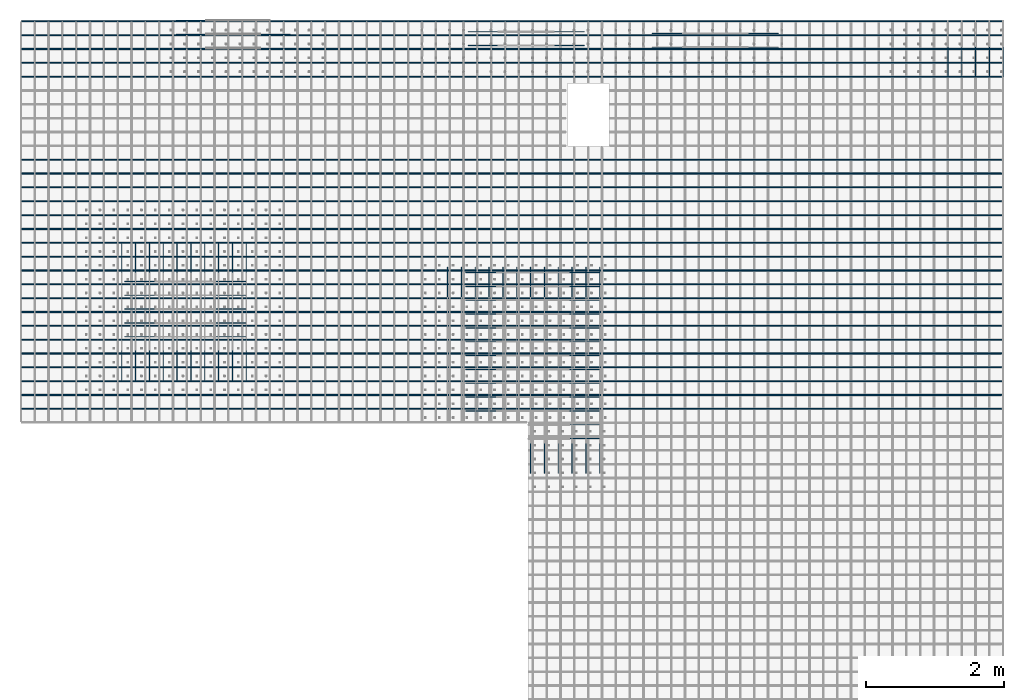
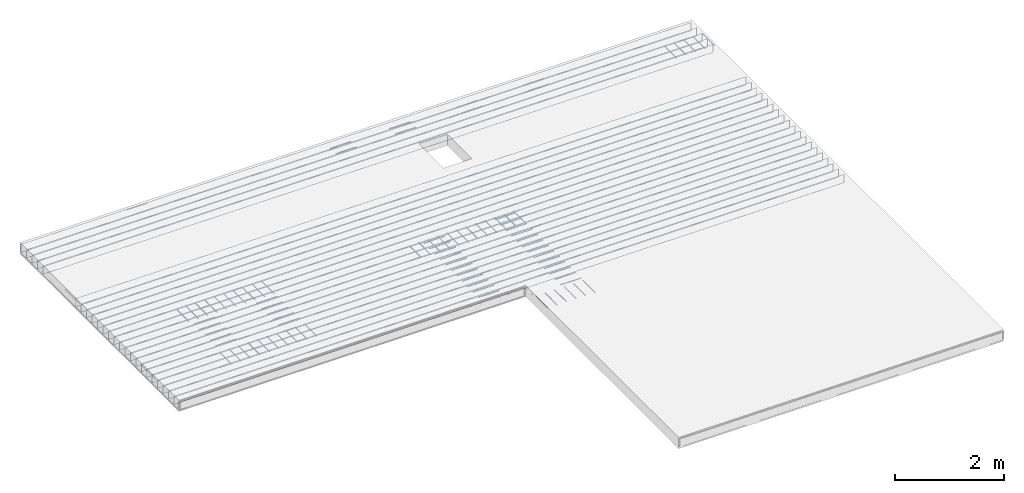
# One storey, part 2 of 4: 2 reinforcing bars.
"""IFC4 building model written with IfcOpenShell, lengths in metres."""

from ifc_helpers import new_model, entity, si_unit, frame, origin_with_axes, place, context, project, spatial, source, transform, mapped, element, save


model = new_model("IFC4")

# Units and contexts
model_context = context("Model", 3, precision=1e-05, world=origin_with_axes())
ifc_project = project(units=[si_unit("LENGTHUNIT", "METRE"), si_unit("AREAUNIT", "SQUARE_METRE"), si_unit("VOLUMEUNIT", "CUBIC_METRE"), si_unit("MASSUNIT", "GRAM", prefix="KILO"), si_unit("TIMEUNIT", "SECOND"), si_unit("PLANEANGLEUNIT", "RADIAN"), si_unit("SOLIDANGLEUNIT", "STERADIAN"), si_unit("THERMODYNAMICTEMPERATUREUNIT", "DEGREE_CELSIUS")], contexts=[model_context])

# Site, building, storey
placement_1 = place(None, origin_with_axes())
site = spatial("IfcSite", under=ifc_project, at=placement_1, Name="Italia", CompositionType="ELEMENT")
building = spatial("IfcBuilding", under=site, at=placement_1, Name="Abitazione", CompositionType="ELEMENT")
storey_placement = place(None, frame((0.0, 0.0, 6.730000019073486), z_axis=(0.0, 0.0, 1.0), x_axis=(1.0, 0.0, 0.0)))
storey = spatial("IfcBuildingStorey", under=building, at=storey_placement, Name="Storey 2", CompositionType="ELEMENT", Elevation=6.730000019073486)

# Reinforcing bars
shared_shape_1 = source(origin_with_axes(), model_context, "Body", "AdvancedSweptSolid", [
    entity("IfcSweptDiskSolid", entity("IfcIndexedPolyCurve", entity("IfcCartesianPointList3D", [[0.812, 5.794, 6.534], [0.812, 5.794, 6.69], [0.812761, 5.794, 6.69383], [0.814929, 5.794, 6.69707], [0.818173, 5.794, 6.69924], [0.822, 5.794, 6.7], [14.966, 5.794, 6.7], [14.9698, 5.794, 6.69924], [14.9731, 5.794, 6.69707], [14.9752, 5.794, 6.69383], [14.976, 5.794, 6.69], [14.976, 5.794, 6.534]]), [entity("IfcLineIndex", [1, 2]), entity("IfcLineIndex", [2, 3]), entity("IfcLineIndex", [3, 4]), entity("IfcLineIndex", [4, 5]), entity("IfcLineIndex", [5, 6]), entity("IfcLineIndex", [6, 7]), entity("IfcLineIndex", [7, 8]), entity("IfcLineIndex", [8, 9]), entity("IfcLineIndex", [9, 10]), entity("IfcLineIndex", [10, 11]), entity("IfcLineIndex", [11, 12])], False), 0.006),
])
placement_2 = place(placement_1, origin_with_axes())
reinforcing_bar_1_placement = place(placement_2, origin_with_axes())
element("IfcReinforcingBar", 1, at=reinforcing_bar_1_placement, inside=storey, BarLength=14.4872, CrossSectionArea=0.0001131, NominalDiameter=0.012, context=model_context, shape_type="MappedRepresentation", body=[
    mapped(shared_shape_1, transform((0.0, 13.2, 13.21), x_axis=(1.0, 0.0, 0.0), y_axis=(0.0, -1.0, 0.0), z_axis=(0.0, 0.0, -1.0), scale=1.0)),
    mapped(shared_shape_1, transform((0.0, 13.0, 13.21), x_axis=(1.0, 0.0, 0.0), y_axis=(0.0, -1.0, 0.0), z_axis=(0.0, 0.0, -1.0), scale=1.0)),
    mapped(shared_shape_1, transform((0.0, 12.8, 13.21), x_axis=(1.0, 0.0, 0.0), y_axis=(0.0, -1.0, 0.0), z_axis=(0.0, 0.0, -1.0), scale=1.0)),
    mapped(shared_shape_1, transform((0.0, 13.8, 13.21), x_axis=(1.0, 0.0, 0.0), y_axis=(0.0, -1.0, 0.0), z_axis=(0.0, 0.0, -1.0), scale=1.0)),
    mapped(shared_shape_1, transform((0.0, 13.6, 13.21), x_axis=(1.0, 0.0, 0.0), y_axis=(0.0, -1.0, 0.0), z_axis=(0.0, 0.0, -1.0), scale=1.0)),
    mapped(shared_shape_1, transform((0.0, 13.4, 13.21), x_axis=(1.0, 0.0, 0.0), y_axis=(0.0, -1.0, 0.0), z_axis=(0.0, 0.0, -1.0), scale=1.0)),
    mapped(shared_shape_1, transform((0.0, 12.0, 13.21), x_axis=(1.0, 0.0, 0.0), y_axis=(0.0, -1.0, 0.0), z_axis=(0.0, 0.0, -1.0), scale=1.0)),
    mapped(shared_shape_1, transform((0.0, 11.8, 13.21), x_axis=(1.0, 0.0, 0.0), y_axis=(0.0, -1.0, 0.0), z_axis=(0.0, 0.0, -1.0), scale=1.0)),
    mapped(shared_shape_1, transform((0.0, 11.6, 13.21), x_axis=(1.0, 0.0, 0.0), y_axis=(0.0, -1.0, 0.0), z_axis=(0.0, 0.0, -1.0), scale=1.0)),
    mapped(shared_shape_1, transform((0.0, 12.6, 13.21), x_axis=(1.0, 0.0, 0.0), y_axis=(0.0, -1.0, 0.0), z_axis=(0.0, 0.0, -1.0), scale=1.0)),
    mapped(shared_shape_1, transform((0.0, 12.4, 13.21), x_axis=(1.0, 0.0, 0.0), y_axis=(0.0, -1.0, 0.0), z_axis=(0.0, 0.0, -1.0), scale=1.0)),
    mapped(shared_shape_1, transform((0.0, 12.2, 13.21), x_axis=(1.0, 0.0, 0.0), y_axis=(0.0, -1.0, 0.0), z_axis=(0.0, 0.0, -1.0), scale=1.0)),
    mapped(shared_shape_1, transform((0.0, 16.6, 13.21), x_axis=(1.0, 0.0, 0.0), y_axis=(0.0, -1.0, 0.0), z_axis=(0.0, 0.0, -1.0), scale=1.0)),
    mapped(shared_shape_1, transform((0.0, 16.4, 13.21), x_axis=(1.0, 0.0, 0.0), y_axis=(0.0, -1.0, 0.0), z_axis=(0.0, 0.0, -1.0), scale=1.0)),
    mapped(shared_shape_1, transform((0.0, 15.2, 13.21), x_axis=(1.0, 0.0, 0.0), y_axis=(0.0, -1.0, 0.0), z_axis=(0.0, 0.0, -1.0), scale=1.0)),
    mapped(shared_shape_1, transform((0.0, 17.2, 13.21), x_axis=(1.0, 0.0, 0.0), y_axis=(0.0, -1.0, 0.0), z_axis=(0.0, 0.0, -1.0), scale=1.0)),
    mapped(shared_shape_1, transform((0.0, 17.0, 13.21), x_axis=(1.0, 0.0, 0.0), y_axis=(0.0, -1.0, 0.0), z_axis=(0.0, 0.0, -1.0), scale=1.0)),
    mapped(shared_shape_1, transform((0.0, 16.8, 13.21), x_axis=(1.0, 0.0, 0.0), y_axis=(0.0, -1.0, 0.0), z_axis=(0.0, 0.0, -1.0), scale=1.0)),
    mapped(shared_shape_1, transform((0.0, 14.4, 13.21), x_axis=(1.0, 0.0, 0.0), y_axis=(0.0, -1.0, 0.0), z_axis=(0.0, 0.0, -1.0), scale=1.0)),
    mapped(shared_shape_1, transform((0.0, 14.2, 13.21), x_axis=(1.0, 0.0, 0.0), y_axis=(0.0, -1.0, 0.0), z_axis=(0.0, 0.0, -1.0), scale=1.0)),
    mapped(shared_shape_1, transform((0.0, 14.0, 13.21), x_axis=(1.0, 0.0, 0.0), y_axis=(0.0, -1.0, 0.0), z_axis=(0.0, 0.0, -1.0), scale=1.0)),
    mapped(shared_shape_1, transform((0.0, 15.0, 13.21), x_axis=(1.0, 0.0, 0.0), y_axis=(0.0, -1.0, 0.0), z_axis=(0.0, 0.0, -1.0), scale=1.0)),
    mapped(shared_shape_1, transform((0.0, 14.8, 13.21), x_axis=(1.0, 0.0, 0.0), y_axis=(0.0, -1.0, 0.0), z_axis=(0.0, 0.0, -1.0), scale=1.0)),
    mapped(shared_shape_1, transform((0.0, 14.6, 13.21), x_axis=(1.0, 0.0, 0.0), y_axis=(0.0, -1.0, 0.0), z_axis=(0.0, 0.0, -1.0), scale=1.0)),
    mapped(shared_shape_1, transform((0.0, 1.6, 0.0), x_axis=(1.0, 0.0, 0.0), y_axis=(0.0, 1.0, 0.0), z_axis=(0.0, 0.0, 1.0), scale=1.0)),
    mapped(shared_shape_1, transform((0.0, 1.4, 0.0), x_axis=(1.0, 0.0, 0.0), y_axis=(0.0, 1.0, 0.0), z_axis=(0.0, 0.0, 1.0), scale=1.0)),
    mapped(shared_shape_1, transform((0.0, 1.2, 0.0), x_axis=(1.0, 0.0, 0.0), y_axis=(0.0, 1.0, 0.0), z_axis=(0.0, 0.0, 1.0), scale=1.0)),
    mapped(shared_shape_1, transform((0.0, 2.2, 0.0), x_axis=(1.0, 0.0, 0.0), y_axis=(0.0, 1.0, 0.0), z_axis=(0.0, 0.0, 1.0), scale=1.0)),
    mapped(shared_shape_1, transform((0.0, 2.0, 0.0), x_axis=(1.0, 0.0, 0.0), y_axis=(0.0, 1.0, 0.0), z_axis=(0.0, 0.0, 1.0), scale=1.0)),
    mapped(shared_shape_1, transform((0.0, 1.8, 0.0), x_axis=(1.0, 0.0, 0.0), y_axis=(0.0, 1.0, 0.0), z_axis=(0.0, 0.0, 1.0), scale=1.0)),
    mapped(shared_shape_1, transform((0.0, 0.4, 0.0), x_axis=(1.0, 0.0, 0.0), y_axis=(0.0, 1.0, 0.0), z_axis=(0.0, 0.0, 1.0), scale=1.0)),
    mapped(shared_shape_1, transform((0.0, 0.2, 0.0), x_axis=(1.0, 0.0, 0.0), y_axis=(0.0, 1.0, 0.0), z_axis=(0.0, 0.0, 1.0), scale=1.0)),
    mapped(shared_shape_1, transform((0.0, 0.0, 0.0), x_axis=(1.0, 0.0, 0.0), y_axis=(0.0, 1.0, 0.0), z_axis=(0.0, 0.0, 1.0), scale=1.0)),
    mapped(shared_shape_1, transform((0.0, 0.999999, 0.0), x_axis=(1.0, 0.0, 0.0), y_axis=(0.0, 1.0, 0.0), z_axis=(0.0, 0.0, 1.0), scale=1.0)),
    mapped(shared_shape_1, transform((0.0, 0.799999, 0.0), x_axis=(1.0, 0.0, 0.0), y_axis=(0.0, 1.0, 0.0), z_axis=(0.0, 0.0, 1.0), scale=1.0)),
    mapped(shared_shape_1, transform((0.0, 0.599999, 0.0), x_axis=(1.0, 0.0, 0.0), y_axis=(0.0, 1.0, 0.0), z_axis=(0.0, 0.0, 1.0), scale=1.0)),
    mapped(shared_shape_1, transform((0.0, 5.0, 0.0), x_axis=(1.0, 0.0, 0.0), y_axis=(0.0, 1.0, 0.0), z_axis=(0.0, 0.0, 1.0), scale=1.0)),
    mapped(shared_shape_1, transform((0.0, 4.8, 0.0), x_axis=(1.0, 0.0, 0.0), y_axis=(0.0, 1.0, 0.0), z_axis=(0.0, 0.0, 1.0), scale=1.0)),
    mapped(shared_shape_1, transform((0.0, 3.6, 0.0), x_axis=(1.0, 0.0, 0.0), y_axis=(0.0, 1.0, 0.0), z_axis=(0.0, 0.0, 1.0), scale=1.0)),
    mapped(shared_shape_1, transform((0.0, 5.6, 0.0), x_axis=(1.0, 0.0, 0.0), y_axis=(0.0, 1.0, 0.0), z_axis=(0.0, 0.0, 1.0), scale=1.0)),
    mapped(shared_shape_1, transform((0.0, 5.4, 0.0), x_axis=(1.0, 0.0, 0.0), y_axis=(0.0, 1.0, 0.0), z_axis=(0.0, 0.0, 1.0), scale=1.0)),
    mapped(shared_shape_1, transform((0.0, 5.2, 0.0), x_axis=(1.0, 0.0, 0.0), y_axis=(0.0, 1.0, 0.0), z_axis=(0.0, 0.0, 1.0), scale=1.0)),
    mapped(shared_shape_1, transform((0.0, 2.8, 0.0), x_axis=(1.0, 0.0, 0.0), y_axis=(0.0, 1.0, 0.0), z_axis=(0.0, 0.0, 1.0), scale=1.0)),
    mapped(shared_shape_1, transform((0.0, 2.6, 0.0), x_axis=(1.0, 0.0, 0.0), y_axis=(0.0, 1.0, 0.0), z_axis=(0.0, 0.0, 1.0), scale=1.0)),
    mapped(shared_shape_1, transform((0.0, 2.4, 0.0), x_axis=(1.0, 0.0, 0.0), y_axis=(0.0, 1.0, 0.0), z_axis=(0.0, 0.0, 1.0), scale=1.0)),
    mapped(shared_shape_1, transform((0.0, 3.4, 0.0), x_axis=(1.0, 0.0, 0.0), y_axis=(0.0, 1.0, 0.0), z_axis=(0.0, 0.0, 1.0), scale=1.0)),
    mapped(shared_shape_1, transform((0.0, 3.2, 0.0), x_axis=(1.0, 0.0, 0.0), y_axis=(0.0, 1.0, 0.0), z_axis=(0.0, 0.0, 1.0), scale=1.0)),
    mapped(shared_shape_1, transform((0.0, 3.0, 0.0), x_axis=(1.0, 0.0, 0.0), y_axis=(0.0, 1.0, 0.0), z_axis=(0.0, 0.0, 1.0), scale=1.0)),
])
shared_shape_2 = source(origin_with_axes(), model_context, "Body", "AdvancedSweptSolid", [
    entity("IfcSweptDiskSolid", entity("IfcIndexedPolyCurve", entity("IfcCartesianPointList3D", [[7.23045, 5.76872, 6.676], [7.66749, 5.76872, 6.676]]), [entity("IfcLineIndex", [1, 2])], False), 0.006),
])
reinforcing_bar_2_placement = place(placement_2, origin_with_axes())
element("IfcReinforcingBar", 2, at=reinforcing_bar_2_placement, inside=storey, BarLength=0.437046, CrossSectionArea=0.0001131, NominalDiameter=0.012, context=model_context, shape_type="MappedRepresentation", body=[
    mapped(shared_shape_2, transform((-3.61208, 1.27137, 0.0), x_axis=(1.0, 0.0, 0.0), y_axis=(0.0, 1.0, 0.0), z_axis=(0.0, 0.0, 1.0), scale=1.0)),
    mapped(shared_shape_2, transform((-3.61208, 1.07137, 0.0), x_axis=(1.0, 0.0, 0.0), y_axis=(0.0, 1.0, 0.0), z_axis=(0.0, 0.0, 1.0), scale=1.0)),
    mapped(shared_shape_2, transform((9.8284, -1.02461, -0.0120006), x_axis=(0.0, 1.0, 0.0), y_axis=(-1.0, 0.0, 0.0), z_axis=(0.0, 0.0, 1.0), scale=1.0)),
    mapped(shared_shape_2, transform((-3.61208, 1.47137, 0.0), x_axis=(1.0, 0.0, 0.0), y_axis=(0.0, 1.0, 0.0), z_axis=(0.0, 0.0, 1.0), scale=1.0)),
    mapped(shared_shape_2, transform((-4.93503, 1.07137, 0.0), x_axis=(1.0, 0.0, 0.0), y_axis=(0.0, 1.0, 0.0), z_axis=(0.0, 0.0, 1.0), scale=1.0)),
    mapped(shared_shape_2, transform((8.0284, 0.538341, -0.0120006), x_axis=(0.0, 1.0, 0.0), y_axis=(-1.0, 0.0, 0.0), z_axis=(0.0, 0.0, 1.0), scale=1.0)),
    mapped(shared_shape_2, transform((-4.93503, 1.47137, 0.0), x_axis=(1.0, 0.0, 0.0), y_axis=(0.0, 1.0, 0.0), z_axis=(0.0, 0.0, 1.0), scale=1.0)),
    mapped(shared_shape_2, transform((-4.93503, 1.27137, 0.0), x_axis=(1.0, 0.0, 0.0), y_axis=(0.0, 1.0, 0.0), z_axis=(0.0, 0.0, 1.0), scale=1.0)),
    mapped(shared_shape_2, transform((-4.93503, 1.87137, 0.0), x_axis=(1.0, 0.0, 0.0), y_axis=(0.0, 1.0, 0.0), z_axis=(0.0, 0.0, 1.0), scale=1.0)),
    mapped(shared_shape_2, transform((-4.93503, 1.67137, 0.0), x_axis=(1.0, 0.0, 0.0), y_axis=(0.0, 1.0, 0.0), z_axis=(0.0, 0.0, 1.0), scale=1.0)),
    mapped(shared_shape_2, transform((9.6284, -1.02461, -0.0120006), x_axis=(0.0, 1.0, 0.0), y_axis=(-1.0, 0.0, 0.0), z_axis=(0.0, 0.0, 1.0), scale=1.0)),
    mapped(shared_shape_2, transform((9.4284, -1.02461, -0.0120006), x_axis=(0.0, 1.0, 0.0), y_axis=(-1.0, 0.0, 0.0), z_axis=(0.0, 0.0, 1.0), scale=1.0)),
    mapped(shared_shape_2, transform((-3.61208, 1.87137, 0.0), x_axis=(1.0, 0.0, 0.0), y_axis=(0.0, 1.0, 0.0), z_axis=(0.0, 0.0, 1.0), scale=1.0)),
    mapped(shared_shape_2, transform((-3.61208, 1.67137, 0.0), x_axis=(1.0, 0.0, 0.0), y_axis=(0.0, 1.0, 0.0), z_axis=(0.0, 0.0, 1.0), scale=1.0)),
    mapped(shared_shape_2, transform((8.4284, -1.02461, -0.0120006), x_axis=(0.0, 1.0, 0.0), y_axis=(-1.0, 0.0, 0.0), z_axis=(0.0, 0.0, 1.0), scale=1.0)),
    mapped(shared_shape_2, transform((1.50295, 2.0, 0.0), x_axis=(1.0, 0.0, 0.0), y_axis=(0.0, 1.0, 0.0), z_axis=(0.0, 0.0, 1.0), scale=1.0)),
    mapped(shared_shape_2, transform((8.8284, -1.02461, -0.0120006), x_axis=(0.0, 1.0, 0.0), y_axis=(-1.0, 0.0, 0.0), z_axis=(0.0, 0.0, 1.0), scale=1.0)),
    mapped(shared_shape_2, transform((8.6284, -1.02461, -0.0120006), x_axis=(0.0, 1.0, 0.0), y_axis=(-1.0, 0.0, 0.0), z_axis=(0.0, 0.0, 1.0), scale=1.0)),
    mapped(shared_shape_2, transform((9.2284, -1.02461, -0.0120006), x_axis=(0.0, 1.0, 0.0), y_axis=(-1.0, 0.0, 0.0), z_axis=(0.0, 0.0, 1.0), scale=1.0)),
    mapped(shared_shape_2, transform((9.0284, -1.02461, -0.0120006), x_axis=(0.0, 1.0, 0.0), y_axis=(-1.0, 0.0, 0.0), z_axis=(0.0, 0.0, 1.0), scale=1.0)),
    mapped(shared_shape_2, transform((1.50295, 1.6, 0.0), x_axis=(1.0, 0.0, 0.0), y_axis=(0.0, 1.0, 0.0), z_axis=(0.0, 0.0, 1.0), scale=1.0)),
    mapped(shared_shape_2, transform((0.0, 1.8, 0.0), x_axis=(1.0, 0.0, 0.0), y_axis=(0.0, 1.0, 0.0), z_axis=(0.0, 0.0, 1.0), scale=1.0)),
    mapped(shared_shape_2, transform((8.0284, -1.02461, -0.0120006), x_axis=(0.0, 1.0, 0.0), y_axis=(-1.0, 0.0, 0.0), z_axis=(0.0, 0.0, 1.0), scale=1.0)),
    mapped(shared_shape_2, transform((1.50295, 1.8, 0.0), x_axis=(1.0, 0.0, 0.0), y_axis=(0.0, 1.0, 0.0), z_axis=(0.0, 0.0, 1.0), scale=1.0)),
    mapped(shared_shape_2, transform((0.0, 0.799999, 0.0), x_axis=(1.0, 0.0, 0.0), y_axis=(0.0, 1.0, 0.0), z_axis=(0.0, 0.0, 1.0), scale=1.0)),
    mapped(shared_shape_2, transform((8.2284, -1.02461, -0.0120006), x_axis=(0.0, 1.0, 0.0), y_axis=(-1.0, 0.0, 0.0), z_axis=(0.0, 0.0, 1.0), scale=1.0)),
    mapped(shared_shape_2, transform((0.0, 1.2, 0.0), x_axis=(1.0, 0.0, 0.0), y_axis=(0.0, 1.0, 0.0), z_axis=(0.0, 0.0, 1.0), scale=1.0)),
    mapped(shared_shape_2, transform((0.0, 0.999999, 0.0), x_axis=(1.0, 0.0, 0.0), y_axis=(0.0, 1.0, 0.0), z_axis=(0.0, 0.0, 1.0), scale=1.0)),
    mapped(shared_shape_2, transform((0.0, 1.6, 0.0), x_axis=(1.0, 0.0, 0.0), y_axis=(0.0, 1.0, 0.0), z_axis=(0.0, 0.0, 1.0), scale=1.0)),
    mapped(shared_shape_2, transform((0.0, 1.4, 0.0), x_axis=(1.0, 0.0, 0.0), y_axis=(0.0, 1.0, 0.0), z_axis=(0.0, 0.0, 1.0), scale=1.0)),
    mapped(shared_shape_2, transform((1.50295, -0.4, 0.0), x_axis=(1.0, 0.0, 0.0), y_axis=(0.0, 1.0, 0.0), z_axis=(0.0, 0.0, 1.0), scale=1.0)),
    mapped(shared_shape_2, transform((0.0, 2.0, 0.0), x_axis=(1.0, 0.0, 0.0), y_axis=(0.0, 1.0, 0.0), z_axis=(0.0, 0.0, 1.0), scale=1.0)),
    mapped(shared_shape_2, transform((0.0, 0.4, 0.0), x_axis=(1.0, 0.0, 0.0), y_axis=(0.0, 1.0, 0.0), z_axis=(0.0, 0.0, 1.0), scale=1.0)),
    mapped(shared_shape_2, transform((0.0, 0.2, 0.0), x_axis=(1.0, 0.0, 0.0), y_axis=(0.0, 1.0, 0.0), z_axis=(0.0, 0.0, 1.0), scale=1.0)),
    mapped(shared_shape_2, transform((1.50295, 0.599999, 0.0), x_axis=(1.0, 0.0, 0.0), y_axis=(0.0, 1.0, 0.0), z_axis=(0.0, 0.0, 1.0), scale=1.0)),
    mapped(shared_shape_2, transform((0.0, 0.599999, 0.0), x_axis=(1.0, 0.0, 0.0), y_axis=(0.0, 1.0, 0.0), z_axis=(0.0, 0.0, 1.0), scale=1.0)),
    mapped(shared_shape_2, transform((1.50295, 0.999999, 0.0), x_axis=(1.0, 0.0, 0.0), y_axis=(0.0, 1.0, 0.0), z_axis=(0.0, 0.0, 1.0), scale=1.0)),
    mapped(shared_shape_2, transform((1.50295, 0.799999, 0.0), x_axis=(1.0, 0.0, 0.0), y_axis=(0.0, 1.0, 0.0), z_axis=(0.0, 0.0, 1.0), scale=1.0)),
    mapped(shared_shape_2, transform((1.50295, 1.4, 0.0), x_axis=(1.0, 0.0, 0.0), y_axis=(0.0, 1.0, 0.0), z_axis=(0.0, 0.0, 1.0), scale=1.0)),
    mapped(shared_shape_2, transform((1.50295, 1.2, 0.0), x_axis=(1.0, 0.0, 0.0), y_axis=(0.0, 1.0, 0.0), z_axis=(0.0, 0.0, 1.0), scale=1.0)),
    mapped(shared_shape_2, transform((1.50295, -0.2, 0.0), x_axis=(1.0, 0.0, 0.0), y_axis=(0.0, 1.0, 0.0), z_axis=(0.0, 0.0, 1.0), scale=1.0)),
    mapped(shared_shape_2, transform((0.0, 0.0, 0.0), x_axis=(1.0, 0.0, 0.0), y_axis=(0.0, 1.0, 0.0), z_axis=(0.0, 0.0, 1.0), scale=1.0)),
    mapped(shared_shape_2, transform((1.50295, 0.2, 0.0), x_axis=(1.0, 0.0, 0.0), y_axis=(0.0, 1.0, 0.0), z_axis=(0.0, 0.0, 1.0), scale=1.0)),
    mapped(shared_shape_2, transform((1.50295, 0.0, 0.0), x_axis=(1.0, 0.0, 0.0), y_axis=(0.0, 1.0, 0.0), z_axis=(0.0, 0.0, 1.0), scale=1.0)),
    mapped(shared_shape_2, transform((1.28299, 5.28254, 0.0), x_axis=(1.0, 0.0, 0.0), y_axis=(0.0, 1.0, 0.0), z_axis=(0.0, 0.0, 1.0), scale=1.0)),
    mapped(shared_shape_2, transform((1.50295, 0.4, 0.0), x_axis=(1.0, 0.0, 0.0), y_axis=(0.0, 1.0, 0.0), z_axis=(0.0, 0.0, 1.0), scale=1.0)),
    mapped(shared_shape_2, transform((-4.19078, 5.24372, 0.0), x_axis=(1.0, 0.0, 0.0), y_axis=(0.0, 1.0, 0.0), z_axis=(0.0, 0.0, 1.0), scale=1.0)),
    mapped(shared_shape_2, transform((1.28299, 5.48254, 0.0), x_axis=(1.0, 0.0, 0.0), y_axis=(0.0, 1.0, 0.0), z_axis=(0.0, 0.0, 1.0), scale=1.0)),
    mapped(shared_shape_2, transform((20.769, 3.36529, -0.0120006), x_axis=(0.0, 1.0, 0.0), y_axis=(-1.0, 0.0, 0.0), z_axis=(0.0, 0.0, 1.0), scale=1.0)),
    mapped(shared_shape_2, transform((-4.19078, 5.44372, 0.0), x_axis=(1.0, 0.0, 0.0), y_axis=(0.0, 1.0, 0.0), z_axis=(0.0, 0.0, 1.0), scale=1.0)),
    mapped(shared_shape_2, transform((14.7367, 0.183497, -0.0120006), x_axis=(0.0, 1.0, 0.0), y_axis=(-1.0, 0.0, 0.0), z_axis=(0.0, 0.0, 1.0), scale=1.0)),
    mapped(shared_shape_2, transform((14.5367, 0.183497, -0.0120006), x_axis=(0.0, 1.0, 0.0), y_axis=(-1.0, 0.0, 0.0), z_axis=(0.0, 0.0, 1.0), scale=1.0)),
    mapped(shared_shape_2, transform((0.0300355, 5.28254, 0.0), x_axis=(1.0, 0.0, 0.0), y_axis=(0.0, 1.0, 0.0), z_axis=(0.0, 0.0, 1.0), scale=1.0)),
    mapped(shared_shape_2, transform((14.9367, 0.183497, -0.0120006), x_axis=(0.0, 1.0, 0.0), y_axis=(-1.0, 0.0, 0.0), z_axis=(0.0, 0.0, 1.0), scale=1.0)),
    mapped(shared_shape_2, transform((20.169, 3.36529, -0.0120006), x_axis=(0.0, 1.0, 0.0), y_axis=(-1.0, 0.0, 0.0), z_axis=(0.0, 0.0, 1.0), scale=1.0)),
    mapped(shared_shape_2, transform((0.0300355, 5.48254, 0.0), x_axis=(1.0, 0.0, 0.0), y_axis=(0.0, 1.0, 0.0), z_axis=(0.0, 0.0, 1.0), scale=1.0)),
    mapped(shared_shape_2, transform((20.569, 3.36529, -0.0120006), x_axis=(0.0, 1.0, 0.0), y_axis=(-1.0, 0.0, 0.0), z_axis=(0.0, 0.0, 1.0), scale=1.0)),
    mapped(shared_shape_2, transform((20.369, 3.36529, -0.0120006), x_axis=(0.0, 1.0, 0.0), y_axis=(-1.0, 0.0, 0.0), z_axis=(0.0, 0.0, 1.0), scale=1.0)),
    mapped(shared_shape_2, transform((-2.97251, 5.24372, 0.0), x_axis=(1.0, 0.0, 0.0), y_axis=(0.0, 1.0, 0.0), z_axis=(0.0, 0.0, 1.0), scale=1.0)),
    mapped(shared_shape_2, transform((-4.19078, 5.64372, 0.0), x_axis=(1.0, 0.0, 0.0), y_axis=(0.0, 1.0, 0.0), z_axis=(0.0, 0.0, 1.0), scale=1.0)),
    mapped(shared_shape_2, transform((2.69016, 5.45613, 0.0), x_axis=(1.0, 0.0, 0.0), y_axis=(0.0, 1.0, 0.0), z_axis=(0.0, 0.0, 1.0), scale=1.0)),
    mapped(shared_shape_2, transform((2.69016, 5.25613, 0.0), x_axis=(1.0, 0.0, 0.0), y_axis=(0.0, 1.0, 0.0), z_axis=(0.0, 0.0, 1.0), scale=1.0)),
    mapped(shared_shape_2, transform((4.08311, 5.45613, 0.0), x_axis=(1.0, 0.0, 0.0), y_axis=(0.0, 1.0, 0.0), z_axis=(0.0, 0.0, 1.0), scale=1.0)),
    mapped(shared_shape_2, transform((4.08311, 5.25613, 0.0), x_axis=(1.0, 0.0, 0.0), y_axis=(0.0, 1.0, 0.0), z_axis=(0.0, 0.0, 1.0), scale=1.0)),
    mapped(shared_shape_2, transform((13.9367, -2.36946, -0.0120006), x_axis=(0.0, 1.0, 0.0), y_axis=(-1.0, 0.0, 0.0), z_axis=(0.0, 0.0, 1.0), scale=1.0)),
    mapped(shared_shape_2, transform((19.969, 3.36529, -0.0120006), x_axis=(0.0, 1.0, 0.0), y_axis=(-1.0, 0.0, 0.0), z_axis=(0.0, 0.0, 1.0), scale=1.0)),
    mapped(shared_shape_2, transform((14.1367, 0.183497, -0.0120006), x_axis=(0.0, 1.0, 0.0), y_axis=(-1.0, 0.0, 0.0), z_axis=(0.0, 0.0, 1.0), scale=1.0)),
    mapped(shared_shape_2, transform((14.1367, -2.36946, -0.0120006), x_axis=(0.0, 1.0, 0.0), y_axis=(-1.0, 0.0, 0.0), z_axis=(0.0, 0.0, 1.0), scale=1.0)),
    mapped(shared_shape_2, transform((-2.97018, 5.44372, 0.0), x_axis=(1.0, 0.0, 0.0), y_axis=(0.0, 1.0, 0.0), z_axis=(0.0, 0.0, 1.0), scale=1.0)),
    mapped(shared_shape_2, transform((14.3367, 0.183497, -0.0120006), x_axis=(0.0, 1.0, 0.0), y_axis=(-1.0, 0.0, 0.0), z_axis=(0.0, 0.0, 1.0), scale=1.0)),
    mapped(shared_shape_2, transform((9.2284, 0.538341, -0.0120006), x_axis=(0.0, 1.0, 0.0), y_axis=(-1.0, 0.0, 0.0), z_axis=(0.0, 0.0, 1.0), scale=1.0)),
    mapped(shared_shape_2, transform((9.0284, 0.538341, -0.0120006), x_axis=(0.0, 1.0, 0.0), y_axis=(-1.0, 0.0, 0.0), z_axis=(0.0, 0.0, 1.0), scale=1.0)),
    mapped(shared_shape_2, transform((9.6284, 0.538341, -0.0120006), x_axis=(0.0, 1.0, 0.0), y_axis=(-1.0, 0.0, 0.0), z_axis=(0.0, 0.0, 1.0), scale=1.0)),
    mapped(shared_shape_2, transform((9.4284, 0.538341, -0.0120006), x_axis=(0.0, 1.0, 0.0), y_axis=(-1.0, 0.0, 0.0), z_axis=(0.0, 0.0, 1.0), scale=1.0)),
    mapped(shared_shape_2, transform((13.9367, 0.183497, -0.0120006), x_axis=(0.0, 1.0, 0.0), y_axis=(-1.0, 0.0, 0.0), z_axis=(0.0, 0.0, 1.0), scale=1.0)),
    mapped(shared_shape_2, transform((9.8284, 0.538341, -0.0120006), x_axis=(0.0, 1.0, 0.0), y_axis=(-1.0, 0.0, 0.0), z_axis=(0.0, 0.0, 1.0), scale=1.0)),
    mapped(shared_shape_2, transform((14.5367, -2.36946, -0.0120006), x_axis=(0.0, 1.0, 0.0), y_axis=(-1.0, 0.0, 0.0), z_axis=(0.0, 0.0, 1.0), scale=1.0)),
    mapped(shared_shape_2, transform((14.3367, -2.36946, -0.0120006), x_axis=(0.0, 1.0, 0.0), y_axis=(-1.0, 0.0, 0.0), z_axis=(0.0, 0.0, 1.0), scale=1.0)),
    mapped(shared_shape_2, transform((8.8284, 0.538341, -0.0120006), x_axis=(0.0, 1.0, 0.0), y_axis=(-1.0, 0.0, 0.0), z_axis=(0.0, 0.0, 1.0), scale=1.0)),
    mapped(shared_shape_2, transform((8.6284, 0.538341, -0.0120006), x_axis=(0.0, 1.0, 0.0), y_axis=(-1.0, 0.0, 0.0), z_axis=(0.0, 0.0, 1.0), scale=1.0)),
    mapped(shared_shape_2, transform((13.1367, 0.183497, -0.0120006), x_axis=(0.0, 1.0, 0.0), y_axis=(-1.0, 0.0, 0.0), z_axis=(0.0, 0.0, 1.0), scale=1.0)),
    mapped(shared_shape_2, transform((12.9367, 0.183497, -0.0120006), x_axis=(0.0, 1.0, 0.0), y_axis=(-1.0, 0.0, 0.0), z_axis=(0.0, 0.0, 1.0), scale=1.0)),
    mapped(shared_shape_2, transform((13.5367, 0.183497, -0.0120006), x_axis=(0.0, 1.0, 0.0), y_axis=(-1.0, 0.0, 0.0), z_axis=(0.0, 0.0, 1.0), scale=1.0)),
    mapped(shared_shape_2, transform((13.3367, 0.183497, -0.0120006), x_axis=(0.0, 1.0, 0.0), y_axis=(-1.0, 0.0, 0.0), z_axis=(0.0, 0.0, 1.0), scale=1.0)),
    mapped(shared_shape_2, transform((8.2284, 0.538341, -0.0120006), x_axis=(0.0, 1.0, 0.0), y_axis=(-1.0, 0.0, 0.0), z_axis=(0.0, 0.0, 1.0), scale=1.0)),
    mapped(shared_shape_2, transform((13.7367, 0.183497, -0.0120006), x_axis=(0.0, 1.0, 0.0), y_axis=(-1.0, 0.0, 0.0), z_axis=(0.0, 0.0, 1.0), scale=1.0)),
    mapped(shared_shape_2, transform((14.7367, -2.36946, -0.0120006), x_axis=(0.0, 1.0, 0.0), y_axis=(-1.0, 0.0, 0.0), z_axis=(0.0, 0.0, 1.0), scale=1.0)),
    mapped(shared_shape_2, transform((8.4284, 0.538341, -0.0120006), x_axis=(0.0, 1.0, 0.0), y_axis=(-1.0, 0.0, 0.0), z_axis=(0.0, 0.0, 1.0), scale=1.0)),
    mapped(shared_shape_2, transform((12.7367, 0.183497, -0.0120006), x_axis=(0.0, 1.0, 0.0), y_axis=(-1.0, 0.0, 0.0), z_axis=(0.0, 0.0, 1.0), scale=1.0)),
    mapped(shared_shape_2, transform((14.9367, -2.36946, -0.0120006), x_axis=(0.0, 1.0, 0.0), y_axis=(-1.0, 0.0, 0.0), z_axis=(0.0, 0.0, 1.0), scale=1.0)),
])

save(model, "model.ifc")
